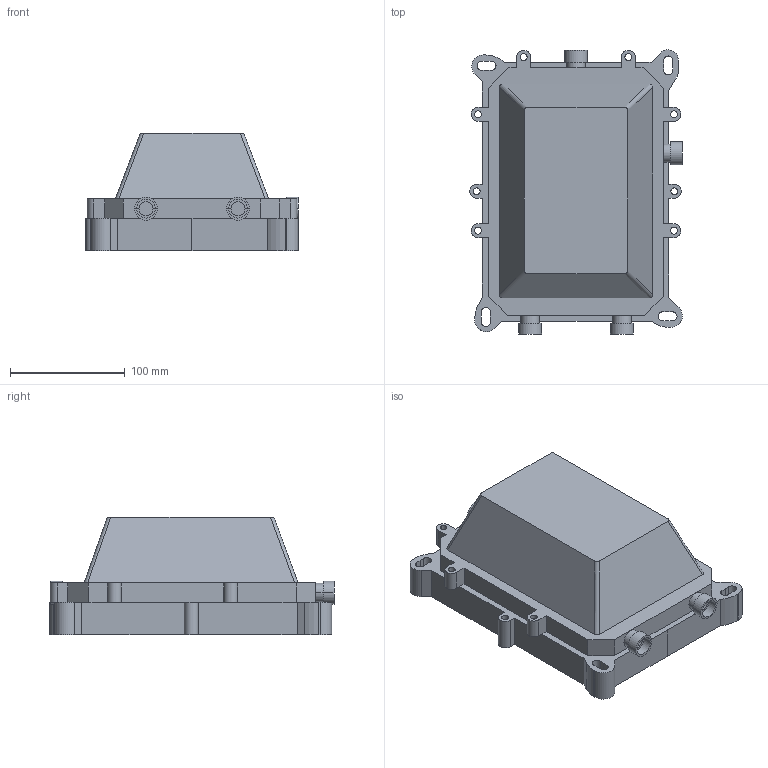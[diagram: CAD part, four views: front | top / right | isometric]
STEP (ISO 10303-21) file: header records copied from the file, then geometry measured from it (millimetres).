
FILE_DESCRIPTION (( 'STEP AP203' ), '1' );
FILE_NAME ('7127.STEP', '2018-08-17T11:16:10', ( '' ), ( '' ), 'SwSTEP 2.0', 'SolidWorks 2016', '' );
FILE_SCHEMA (( 'CONFIG_CONTROL_DESIGN' ));
Length unit declared in the file: millimetre
Products named in the file (1): 7127
Bounding box: 185 x 247.13 x 102 mm (x, y, z)
Volume: 2671580.7 mm3; surface area: 151419.8 mm2
Topology: 1 solids, 1 shells, 187 faces, 484 edges, 302 vertices
Faces by surface type: plane 110, cylinder 73, bspline 4
Entity records: 5987 total; most frequent: CARTESIAN_POINT 1210, DIRECTION 992, ORIENTED_EDGE 968, EDGE_CURVE 484, AXIS2_PLACEMENT_3D 332, VECTOR 328, LINE 328, VERTEX_POINT 302
